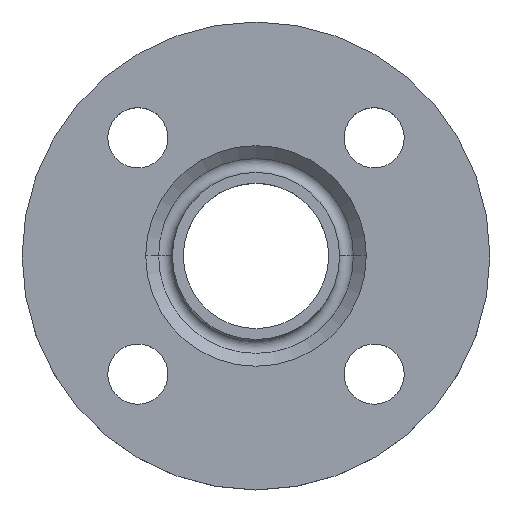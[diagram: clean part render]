
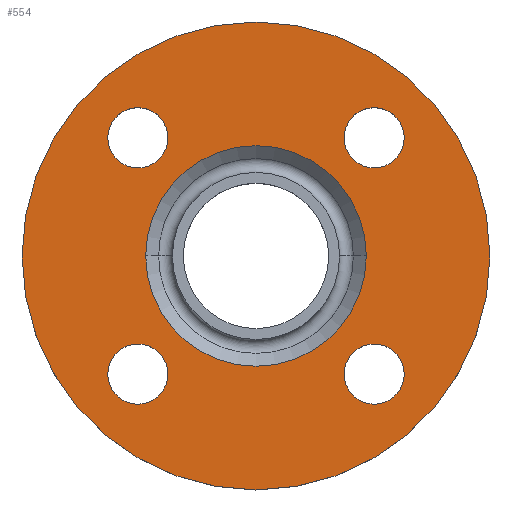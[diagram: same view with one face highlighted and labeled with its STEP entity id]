
A CAD part, top view. The second image highlights one B-rep face of the part: STEP entity #554.
In plain terms, the highlighted planar face has unit normal (0, 0, 1).
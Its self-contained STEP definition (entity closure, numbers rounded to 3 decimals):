
#2 = EDGE_CURVE ( 'NONE', #808, #317, #298, .T. ) ;
#4 = DIRECTION ( 'NONE',  ( 0., 0., -1. ) ) ;
#13 = AXIS2_PLACEMENT_3D ( 'NONE', #710, #4, #281 ) ;
#17 = CARTESIAN_POINT ( 'NONE',  ( -35.355, 35.355, -2. ) ) ;
#35 = EDGE_CURVE ( 'NONE', #123, #577, #103, .T. ) ;
#43 = VERTEX_POINT ( 'NONE', #230 ) ;
#72 = EDGE_CURVE ( 'NONE', #43, #636, #182, .T. ) ;
#81 = EDGE_CURVE ( 'NONE', #729, #382, #222, .T. ) ;
#83 = DIRECTION ( 'NONE',  ( 0., 0., 1. ) ) ;
#87 = DIRECTION ( 'NONE',  ( 0., 0., -1. ) ) ;
#95 = DIRECTION ( 'NONE',  ( -1., 0., 0. ) ) ;
#103 = CIRCLE ( 'NONE', #113, 9. ) ;
#111 = DIRECTION ( 'NONE',  ( 1., 0., 0. ) ) ;
#113 = AXIS2_PLACEMENT_3D ( 'NONE', #17, #224, #485 ) ;
#118 = AXIS2_PLACEMENT_3D ( 'NONE', #752, #190, #450 ) ;
#123 = VERTEX_POINT ( 'NONE', #272 ) ;
#124 = ORIENTED_EDGE ( 'NONE', *, *, #2, .T. ) ;
#132 = CIRCLE ( 'NONE', #242, 9. ) ;
#139 = CARTESIAN_POINT ( 'NONE',  ( 0., 0., -2. ) ) ;
#140 = ORIENTED_EDGE ( 'NONE', *, *, #72, .T. ) ;
#146 = ORIENTED_EDGE ( 'NONE', *, *, #387, .T. ) ;
#151 = EDGE_LOOP ( 'NONE', ( #556, #124 ) ) ;
#152 = FACE_OUTER_BOUND ( 'NONE', #234, .T. ) ;
#182 = CIRCLE ( 'NONE', #221, 9. ) ;
#190 = DIRECTION ( 'NONE',  ( 0., 0., -1. ) ) ;
#192 = DIRECTION ( 'NONE',  ( 0., 0., -1. ) ) ;
#197 = EDGE_CURVE ( 'NONE', #513, #563, #716, .T. ) ;
#198 = DIRECTION ( 'NONE',  ( -1., 0., 0. ) ) ;
#202 = CARTESIAN_POINT ( 'NONE',  ( 35.355, -35.355, -2. ) ) ;
#213 = FACE_BOUND ( 'NONE', #802, .T. ) ;
#221 = AXIS2_PLACEMENT_3D ( 'NONE', #753, #192, #454 ) ;
#222 = CIRCLE ( 'NONE', #471, 70. ) ;
#224 = DIRECTION ( 'NONE',  ( 0., 0., -1. ) ) ;
#230 = CARTESIAN_POINT ( 'NONE',  ( 26.355, 35.355, -2. ) ) ;
#234 = EDGE_LOOP ( 'NONE', ( #704, #416 ) ) ;
#235 = CARTESIAN_POINT ( 'NONE',  ( -70., 0., -2. ) ) ;
#242 = AXIS2_PLACEMENT_3D ( 'NONE', #437, #685, #111 ) ;
#243 = CARTESIAN_POINT ( 'NONE',  ( 35.355, 35.355, -2. ) ) ;
#272 = CARTESIAN_POINT ( 'NONE',  ( -44.355, 35.355, -2. ) ) ;
#281 = DIRECTION ( 'NONE',  ( -1., 0., 0. ) ) ;
#282 = CARTESIAN_POINT ( 'NONE',  ( 35.355, -35.355, -2. ) ) ;
#296 = CARTESIAN_POINT ( 'NONE',  ( 44.355, 35.355, -2. ) ) ;
#297 = AXIS2_PLACEMENT_3D ( 'NONE', #666, #87, #352 ) ;
#298 = CIRCLE ( 'NONE', #297, 9. ) ;
#299 = EDGE_CURVE ( 'NONE', #317, #808, #132, .T. ) ;
#309 = ORIENTED_EDGE ( 'NONE', *, *, #498, .T. ) ;
#317 = VERTEX_POINT ( 'NONE', #799 ) ;
#318 = EDGE_CURVE ( 'NONE', #636, #43, #356, .T. ) ;
#339 = CARTESIAN_POINT ( 'NONE',  ( 44.355, -35.355, -2. ) ) ;
#350 = DIRECTION ( 'NONE',  ( 1., 0., 0. ) ) ;
#352 = DIRECTION ( 'NONE',  ( 1., 0., 0. ) ) ;
#356 = CIRCLE ( 'NONE', #459, 9. ) ;
#359 = ORIENTED_EDGE ( 'NONE', *, *, #35, .T. ) ;
#369 = AXIS2_PLACEMENT_3D ( 'NONE', #282, #541, #774 ) ;
#370 = CIRCLE ( 'NONE', #809, 33. ) ;
#379 = ORIENTED_EDGE ( 'NONE', *, *, #318, .T. ) ;
#382 = VERTEX_POINT ( 'NONE', #635 ) ;
#385 = AXIS2_PLACEMENT_3D ( 'NONE', #421, #672, #95 ) ;
#387 = EDGE_CURVE ( 'NONE', #577, #123, #488, .T. ) ;
#395 = CIRCLE ( 'NONE', #13, 70. ) ;
#402 = DIRECTION ( 'NONE',  ( 0., 0., -1. ) ) ;
#412 = VERTEX_POINT ( 'NONE', #754 ) ;
#413 = PLANE ( 'NONE',  #502 ) ;
#416 = ORIENTED_EDGE ( 'NONE', *, *, #81, .F. ) ;
#421 = CARTESIAN_POINT ( 'NONE',  ( 0., 0., -2. ) ) ;
#437 = CARTESIAN_POINT ( 'NONE',  ( -35.355, -35.355, -2. ) ) ;
#450 = DIRECTION ( 'NONE',  ( 1., 0., 0. ) ) ;
#454 = DIRECTION ( 'NONE',  ( 1., 0., 0. ) ) ;
#456 = ORIENTED_EDGE ( 'NONE', *, *, #197, .T. ) ;
#459 = AXIS2_PLACEMENT_3D ( 'NONE', #243, #503, #743 ) ;
#463 = DIRECTION ( 'NONE',  ( 0., 0., -1. ) ) ;
#471 = AXIS2_PLACEMENT_3D ( 'NONE', #519, #757, #198 ) ;
#473 = ORIENTED_EDGE ( 'NONE', *, *, #494, .T. ) ;
#475 = FACE_BOUND ( 'NONE', #735, .T. ) ;
#485 = DIRECTION ( 'NONE',  ( 1., 0., 0. ) ) ;
#488 = CIRCLE ( 'NONE', #118, 9. ) ;
#494 = EDGE_CURVE ( 'NONE', #563, #513, #625, .T. ) ;
#498 = EDGE_CURVE ( 'NONE', #412, #790, #370, .T. ) ;
#502 = AXIS2_PLACEMENT_3D ( 'NONE', #663, #83, #350 ) ;
#503 = DIRECTION ( 'NONE',  ( 0., 0., -1. ) ) ;
#513 = VERTEX_POINT ( 'NONE', #339 ) ;
#519 = CARTESIAN_POINT ( 'NONE',  ( 0., 0., -2. ) ) ;
#539 = FACE_BOUND ( 'NONE', #696, .T. ) ;
#540 = EDGE_CURVE ( 'NONE', #382, #729, #395, .T. ) ;
#541 = DIRECTION ( 'NONE',  ( 0., 0., -1. ) ) ;
#554 = ADVANCED_FACE ( 'NONE', ( #539, #773, #213, #475, #719, #152 ), #413, .T. ) ;
#556 = ORIENTED_EDGE ( 'NONE', *, *, #299, .T. ) ;
#563 = VERTEX_POINT ( 'NONE', #778 ) ;
#565 = CARTESIAN_POINT ( 'NONE',  ( 33., 0., -2. ) ) ;
#577 = VERTEX_POINT ( 'NONE', #667 ) ;
#620 = EDGE_CURVE ( 'NONE', #790, #412, #736, .T. ) ;
#625 = CIRCLE ( 'NONE', #717, 9. ) ;
#633 = ORIENTED_EDGE ( 'NONE', *, *, #620, .T. ) ;
#635 = CARTESIAN_POINT ( 'NONE',  ( 70., 0., -2. ) ) ;
#636 = VERTEX_POINT ( 'NONE', #296 ) ;
#653 = DIRECTION ( 'NONE',  ( -1., 0., 0. ) ) ;
#663 = CARTESIAN_POINT ( 'NONE',  ( 70., 0., -2. ) ) ;
#666 = CARTESIAN_POINT ( 'NONE',  ( -35.355, -35.355, -2. ) ) ;
#667 = CARTESIAN_POINT ( 'NONE',  ( -26.355, 35.355, -2. ) ) ;
#672 = DIRECTION ( 'NONE',  ( 0., 0., -1. ) ) ;
#685 = DIRECTION ( 'NONE',  ( 0., 0., -1. ) ) ;
#696 = EDGE_LOOP ( 'NONE', ( #456, #473 ) ) ;
#704 = ORIENTED_EDGE ( 'NONE', *, *, #540, .F. ) ;
#706 = DIRECTION ( 'NONE',  ( 1., 0., 0. ) ) ;
#710 = CARTESIAN_POINT ( 'NONE',  ( 0., 0., -2. ) ) ;
#716 = CIRCLE ( 'NONE', #369, 9. ) ;
#717 = AXIS2_PLACEMENT_3D ( 'NONE', #202, #463, #706 ) ;
#719 = FACE_BOUND ( 'NONE', #793, .T. ) ;
#729 = VERTEX_POINT ( 'NONE', #235 ) ;
#735 = EDGE_LOOP ( 'NONE', ( #379, #140 ) ) ;
#736 = CIRCLE ( 'NONE', #385, 33. ) ;
#743 = DIRECTION ( 'NONE',  ( 1., 0., 0. ) ) ;
#752 = CARTESIAN_POINT ( 'NONE',  ( -35.355, 35.355, -2. ) ) ;
#753 = CARTESIAN_POINT ( 'NONE',  ( 35.355, 35.355, -2. ) ) ;
#754 = CARTESIAN_POINT ( 'NONE',  ( -33., 0., -2. ) ) ;
#757 = DIRECTION ( 'NONE',  ( 0., 0., -1. ) ) ;
#773 = FACE_BOUND ( 'NONE', #151, .T. ) ;
#774 = DIRECTION ( 'NONE',  ( 1., 0., 0. ) ) ;
#778 = CARTESIAN_POINT ( 'NONE',  ( 26.355, -35.355, -2. ) ) ;
#790 = VERTEX_POINT ( 'NONE', #565 ) ;
#793 = EDGE_LOOP ( 'NONE', ( #633, #309 ) ) ;
#798 = CARTESIAN_POINT ( 'NONE',  ( -44.355, -35.355, -2. ) ) ;
#799 = CARTESIAN_POINT ( 'NONE',  ( -26.355, -35.355, -2. ) ) ;
#802 = EDGE_LOOP ( 'NONE', ( #146, #359 ) ) ;
#808 = VERTEX_POINT ( 'NONE', #798 ) ;
#809 = AXIS2_PLACEMENT_3D ( 'NONE', #139, #402, #653 ) ;
